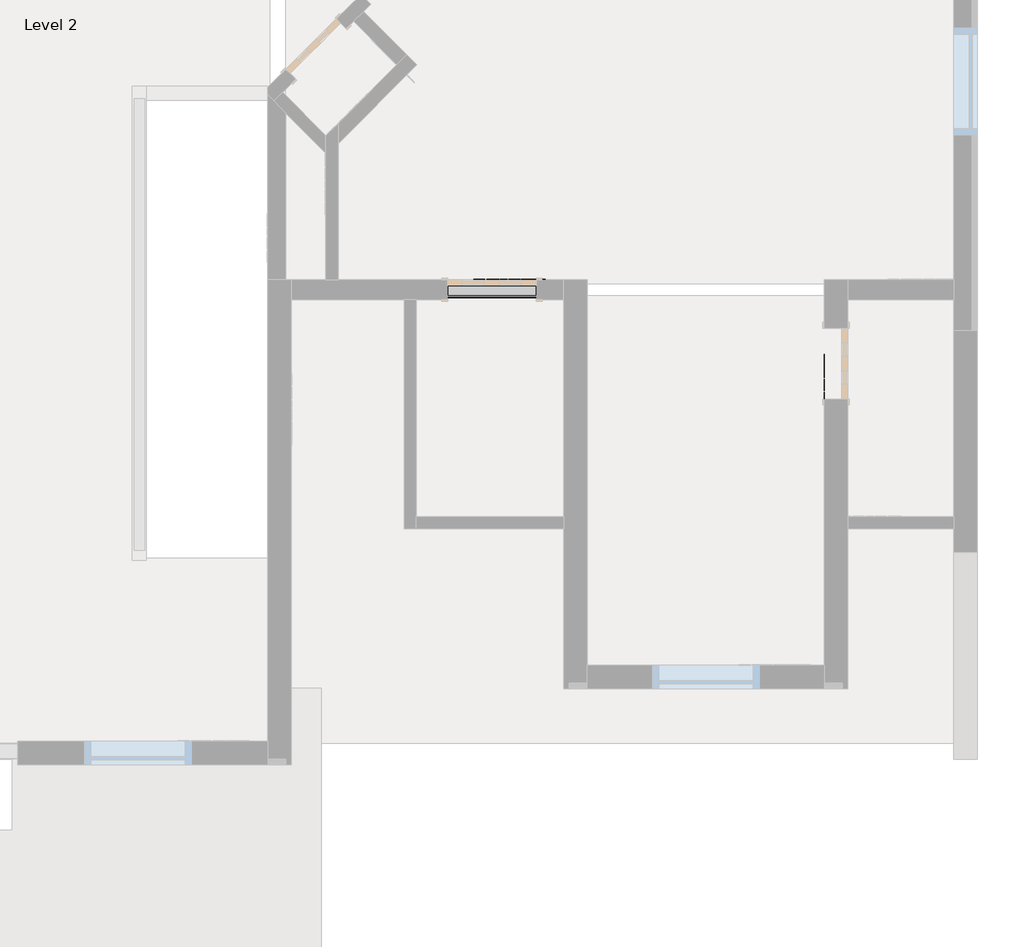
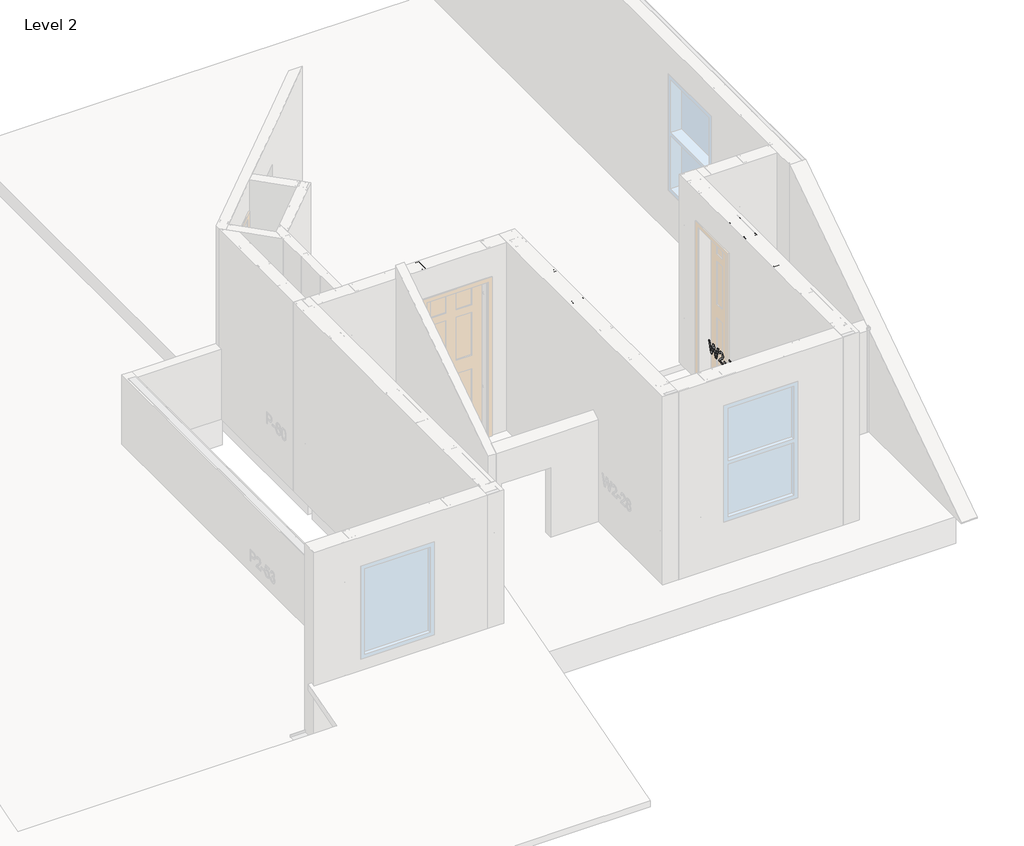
# One storey, part 21 of 46: 8 columns, 3 beams, 2 fasteners.
"""IFC4 building model written with IfcOpenShell, lengths in millimetres."""

from ifc_helpers import new_model, si_unit, point, frame, origin, place, context, project, spatial, circle_curve, ellipse_curve, trimmed, transform, mapped, element, save
from ifc_brep_helpers import plane_surface, extruded_surface, advanced_brep
from components import beam_350nf150_33_c6ae7401, beam_550nf150_43_2dc6aa5f, beam_550nf150_43_10f90b38, column_350nf150_33_f4fa3d8b, column_550nf150_43_e978d052, panellabel_7661e412, panellabel_1d555ae4

model = new_model("IFC4")

# Units and contexts
model_context = context("Model", 3, world=origin())
ifc_project = project(units=[si_unit("LENGTHUNIT", "METRE", prefix="MILLI")], contexts=[model_context])

# Site, building, storey
site = spatial("IfcSite", under=ifc_project)
building = spatial("IfcBuilding", under=site)
storey = spatial("IfcBuildingStorey", under=building, Name="Level 2", Elevation=3060.7)

# Beams
placement = place(None, origin())
beam_350nf150_33_shape = beam_350nf150_33_c6ae7401(model_context)
element("IfcBeam", 1, ObjectType="BIMSF-SSMA-S : 350NF150-33", at=placement, inside=storey, context=model_context, shape_type="MappedRepresentation", body=[
    mapped(beam_350nf150_33_shape, transform((-4093.8944599, 4446.714721, 3076.575), x_axis=(1.0000000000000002, 0.0, 0.0), y_axis=(0.0, 0.0, -1.0000000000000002), z_axis=(0.0, 1.0000000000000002, 0.0))),
])
beam_550nf150_43_shape = beam_550nf150_43_2dc6aa5f(model_context)
element("IfcBeam", 2, ObjectType="BIMSF-SSMA-S : 550NF150-43", at=placement, inside=storey, context=model_context, shape_type="MappedRepresentation", body=[
    mapped(beam_550nf150_43_shape, transform((-4254.6288349, 4365.752221, 3076.575), x_axis=(0.0, -1.0000000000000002, 0.0), y_axis=(0.0, 0.0, -1.0000000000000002), z_axis=(1.0000000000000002, 0.0, 0.0))),
])
beam_550nf150_43_2_shape = beam_550nf150_43_10f90b38(model_context)
element("IfcBeam", 3, ObjectType="BIMSF-SSMA-S : 550NF150-43", at=placement, inside=storey, context=model_context, shape_type="MappedRepresentation", body=[
    mapped(beam_550nf150_43_2_shape, transform((-7705.4569599, 6454.902221, 3076.575), x_axis=(-1.0000000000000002, 0.0, 0.0), y_axis=(0.0, 0.0, -1.0000000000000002), z_axis=(0.0, -1.0000000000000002, 0.0))),
])

# Columns
element("IfcColumn", 4, ObjectType="BIMSF-SSMA-S-Column : 350NF150-33", at=placement, inside=storey, context=model_context, shape_type="AdvancedBrep", body=[
    advanced_brep(
    [(-4184.7788349, 4402.264721, 3061.5929687), (-4184.7788349, 4491.164721, 3061.5929687), (-4146.6788349, 4491.164721, 3061.5929687), (-4146.6788349, 4485.5072052, 3061.5929687), (-4147.5611507, 4485.5072052, 3061.5929687), (-4147.5611507, 4490.2824052, 3061.5929687), (-4183.8965191, 4490.2824052, 3061.5929687), (-4183.8965191, 4403.1470367, 3061.5929687), (-4147.5611507, 4403.1470367, 3061.5929687), (-4147.5611507, 4407.9222367, 3061.5929687), (-4146.6788349, 4407.9222367, 3061.5929687), (-4146.6788349, 4402.264721, 3061.5929687), (-4184.7788349, 4402.264721, 4427.5338969), (-4184.7788349, 4491.164721, 4427.5338969), (-4184.7788349, 4459.414721, 3671.1929688), (-4184.7788349, 4434.014721, 3671.1929688), (-4146.6788349, 4491.164721, 4427.5338969), (-4146.6788349, 4485.5072052, 4427.5338969), (-4147.5611507, 4485.5072052, 4427.5338969), (-4147.5611507, 4490.2824052, 4427.5338969), (-4183.8965191, 4490.2824052, 4427.5338969), (-4183.8965191, 4403.1470367, 4427.5338969), (-4183.8965191, 4434.014721, 3671.1929687), (-4183.8965191, 4459.414721, 3671.1929687), (-4147.5611507, 4403.1470367, 4427.5338969), (-4147.5611507, 4407.9222367, 4427.5338969), (-4146.6788349, 4407.9222367, 4427.5338969), (-4146.6788349, 4402.264721, 4427.5338969)],
    [
        (0, 1),
        (1, 2),
        (2, 3),
        (3, 4),
        (4, 5),
        (5, 6),
        (6, 7),
        (7, 8),
        (8, 9),
        (9, 10),
        (10, 11),
        (11, 0),
        (0, 12),
        (12, 13),
        (13, 1),
        (14, 15, circle_curve(frame((-4184.7788349, 4446.714721, 3671.1929687), z_axis=(1.0, 0.0, 0.0), x_axis=(0.0, 1.0, 0.0)), 12.7)),
        (15, 14, circle_curve(frame((-4184.7788349, 4446.714721, 3671.1929688), z_axis=(1.0, 0.0, 0.0), x_axis=(0.0, 1.0, 0.0)), 12.7)),
        (13, 16),
        (16, 2),
        (16, 17),
        (17, 3),
        (17, 18),
        (18, 4),
        (18, 19),
        (19, 5),
        (19, 20),
        (20, 6),
        (20, 21),
        (21, 7),
        (22, 23, circle_curve(frame((-4183.8965191, 4446.714721, 3671.1929687), z_axis=(-1.0, 0.0, 0.0), x_axis=(0.0, 1.0, 0.0)), 12.7)),
        (23, 22, circle_curve(frame((-4183.8965191, 4446.714721, 3671.1929687), z_axis=(-1.0, 0.0, 0.0), x_axis=(0.0, 1.0, 0.0)), 12.7)),
        (21, 24),
        (24, 8),
        (24, 25),
        (25, 9),
        (25, 26),
        (26, 10),
        (26, 27),
        (27, 11),
        (27, 12),
        (22, 15),
        (14, 23),
    ],
    [
        plane_surface(frame((-4184.7788349, 4402.264721, 3061.5929687), z_axis=(0.0, 0.0, -1.0), x_axis=(-1.0, 0.0, 0.0))),
        plane_surface(frame((-4184.7788349, 4491.164721, 4427.5338969), z_axis=(-1.0, 0.0, 0.0), x_axis=(0.0, 0.0, -1.0))),
        plane_surface(frame((-4146.6788349, 4491.164721, 4427.5338969), z_axis=(0.0, 1.0, 0.0), x_axis=(0.0, 0.0, -1.0))),
        plane_surface(frame((-4146.6788349, 4485.5072052, 4427.5338969), z_axis=(1.0, 0.0, 0.0), x_axis=(0.0, 0.0, -1.0))),
        plane_surface(frame((-4147.5611507, 4485.5072052, 4427.5338969), z_axis=(0.0, -1.0, 0.0), x_axis=(0.0, 0.0, -1.0))),
        plane_surface(frame((-4147.5611507, 4490.2824052, 4427.5338969), z_axis=(-1.0, 0.0, 0.0), x_axis=(0.0, 0.0, -1.0))),
        plane_surface(frame((-4183.8965191, 4490.2824052, 4427.5338969), z_axis=(0.0, -1.0, 0.0), x_axis=(0.0, 0.0, -1.0))),
        plane_surface(frame((-4183.8965191, 4403.1470367, 4427.5338969), z_axis=(1.0, 0.0, 0.0), x_axis=(0.0, 0.0, -1.0))),
        plane_surface(frame((-4147.5611507, 4403.1470367, 4427.5338969), z_axis=(0.0, 1.0, 0.0), x_axis=(0.0, 0.0, -1.0))),
        plane_surface(frame((-4147.5611507, 4407.9222367, 4427.5338969), z_axis=(-1.0, 0.0, 0.0), x_axis=(0.0, 0.0, -1.0))),
        plane_surface(frame((-4146.6788349, 4407.9222367, 4427.5338969), z_axis=(0.0, 1.0, 0.0), x_axis=(0.0, 0.0, -1.0))),
        plane_surface(frame((-4146.6788349, 4402.264721, 4427.5338969), z_axis=(1.0, 0.0, 0.0), x_axis=(0.0, 0.0, -1.0))),
        plane_surface(frame((-4184.7788349, 4402.264721, 4427.5338969), z_axis=(0.0, -1.0, 0.0), x_axis=(0.0, 0.0, -1.0))),
        plane_surface(frame((-4184.7788349, 4402.264721, 4427.5338969), z_axis=(0.0, 0.0, 1.0), x_axis=(1.0, 0.0, 0.0))),
        extruded_surface(trimmed(ellipse_curve(frame((-2799.7879067, 4446.714721, 3671.1929688), z_axis=(-1.0, 0.0, 0.0), x_axis=(0.0, 1.0, 0.0)), 12.7, 12.7), [point((-2799.7879067, 4434.014721, 3671.1929688))], [point((-2799.7879067, 4459.414721, 3671.1929688))], True, "CARTESIAN"), (2731.8818561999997, 0.0, 0.0), 2731.8818561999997),
        extruded_surface(trimmed(ellipse_curve(frame((-2799.7879067, 4446.714721, 3671.1929688), z_axis=(-1.0, 0.0, 0.0), x_axis=(0.0, 1.0, 0.0)), 12.7, 12.7), [point((-2799.7879067, 4459.414721, 3671.1929688))], [point((-2799.7879067, 4434.014721, 3671.1929688))], True, "CARTESIAN"), (2731.8818561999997, 0.0, 0.0), 2731.8818561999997),
    ],
    [
        (0, [[1, 2, 3, 4, 5, 6, 7, 8, 9, 10, 11, 12]]),
        (1, [[-1, 13, 14, 15], [16, 17]]),
        (2, [[-2, -15, 18, 19]]),
        (3, [[-3, -19, 20, 21]]),
        (4, [[-4, -21, 22, 23]]),
        (5, [[-5, -23, 24, 25]]),
        (6, [[-6, -25, 26, 27]]),
        (7, [[-7, -27, 28, 29], [30, 31]]),
        (8, [[-8, -29, 32, 33]]),
        (9, [[-9, -33, 34, 35]]),
        (10, [[-10, -35, 36, 37]]),
        (11, [[-11, -37, 38, 39]]),
        (12, [[-12, -39, 40, -13]]),
        (13, [[-14, -40, -38, -36, -34, -32, -28, -26, -24, -22, -20, -18]]),
        (14, [[41, -16, 42, -30]]),
        (15, [[-41, -31, -42, -17]]),
    ],
),
])
column_350nf150_33_shape = column_350nf150_33_f4fa3d8b(model_context)
element("IfcColumn", 5, ObjectType="BIMSF-SSMA-S-Column : 350NF150-33", at=placement, inside=storey, context=model_context, shape_type="MappedRepresentation", body=[
    mapped(column_350nf150_33_shape, transform((-4015.0078726, 4435.977596, 0.0), x_axis=(-1.0, 0.0, 0.0), y_axis=(0.0, -1.0, 0.0), z_axis=(0.0, 0.0, 1.0))),
])
element("IfcColumn", 6, ObjectType="BIMSF-SSMA-S-Column : 550NF150-33", at=placement, inside=storey, context=model_context, shape_type="AdvancedBrep", body=[
    advanced_brep(
    [(-7576.4725849, 6524.752221, 3061.5929687), (-7576.4725849, 6385.052221, 3061.5929687), (-7614.5725849, 6385.052221, 3061.5929687), (-7614.5725849, 6390.7097367, 3061.5929687), (-7613.6902691, 6390.7097367, 3061.5929687), (-7613.6902691, 6385.9345367, 3061.5929687), (-7577.3549007, 6385.9345367, 3061.5929687), (-7577.3549007, 6523.8699052, 3061.5929687), (-7613.6902691, 6523.8699052, 3061.5929687), (-7613.6902691, 6519.0947052, 3061.5929687), (-7614.5725849, 6519.0947052, 3061.5929687), (-7614.5725849, 6524.752221, 3061.5929687), (-7576.4725849, 6524.752221, 5523.6070313), (-7576.4725849, 6385.052221, 5523.6070313), (-7576.4725849, 6442.202221, 3671.1929687), (-7576.4725849, 6467.602221, 3671.1929687), (-7576.4725849, 6442.202221, 4890.3929687), (-7576.4725849, 6467.602221, 4890.3929687), (-7614.5725849, 6385.052221, 5523.6070313), (-7614.5725849, 6390.7097367, 5523.6070313), (-7613.6902691, 6390.7097367, 5523.6070313), (-7613.6902691, 6385.9345367, 5523.6070313), (-7577.3549007, 6385.9345367, 5523.6070313), (-7577.3549007, 6523.8699052, 5523.6070313), (-7577.3549007, 6467.602221, 3671.1929687), (-7577.3549007, 6442.202221, 3671.1929687), (-7577.3549007, 6467.602221, 4890.3929688), (-7577.3549007, 6442.202221, 4890.3929688), (-7613.6902691, 6523.8699052, 5523.6070313), (-7613.6902691, 6519.0947052, 5523.6070313), (-7614.5725849, 6519.0947052, 5523.6070313), (-7614.5725849, 6524.752221, 5523.6070313)],
    [
        (0, 1),
        (1, 2),
        (2, 3),
        (3, 4),
        (4, 5),
        (5, 6),
        (6, 7),
        (7, 8),
        (8, 9),
        (9, 10),
        (10, 11),
        (11, 0),
        (0, 12),
        (12, 13),
        (13, 1),
        (14, 15, circle_curve(frame((-7576.4725849, 6454.902221, 3671.1929687), z_axis=(-1.0, 0.0, 0.0), x_axis=(0.0, -1.0, 0.0)), 12.7)),
        (15, 14, circle_curve(frame((-7576.4725849, 6454.902221, 3671.1929688), z_axis=(-1.0, 0.0, 0.0), x_axis=(0.0, -1.0, 0.0)), 12.7)),
        (16, 17, circle_curve(frame((-7576.4725849, 6454.902221, 4890.3929687), z_axis=(-1.0, 0.0, 0.0), x_axis=(0.0, -1.0, 0.0)), 12.7)),
        (17, 16, circle_curve(frame((-7576.4725849, 6454.902221, 4890.3929687), z_axis=(-1.0, 0.0, 0.0), x_axis=(0.0, -1.0, 0.0)), 12.7)),
        (13, 18),
        (18, 2),
        (18, 19),
        (19, 3),
        (19, 20),
        (20, 4),
        (20, 21),
        (21, 5),
        (21, 22),
        (22, 6),
        (22, 23),
        (23, 7),
        (24, 25, circle_curve(frame((-7577.3549007, 6454.902221, 3671.1929687), z_axis=(1.0, 0.0, 0.0), x_axis=(0.0, -1.0, 0.0)), 12.7)),
        (25, 24, circle_curve(frame((-7577.3549007, 6454.902221, 3671.1929688), z_axis=(1.0, 0.0, 0.0), x_axis=(0.0, -1.0, 0.0)), 12.7)),
        (26, 27, circle_curve(frame((-7577.3549007, 6454.902221, 4890.3929687), z_axis=(1.0, 0.0, 0.0), x_axis=(0.0, -1.0, 0.0)), 12.7)),
        (27, 26, circle_curve(frame((-7577.3549007, 6454.902221, 4890.3929687), z_axis=(1.0, 0.0, 0.0), x_axis=(0.0, -1.0, 0.0)), 12.7)),
        (23, 28),
        (28, 8),
        (28, 29),
        (29, 9),
        (29, 30),
        (30, 10),
        (30, 31),
        (31, 11),
        (31, 12),
        (24, 15),
        (14, 25),
        (26, 17),
        (16, 27),
    ],
    [
        plane_surface(frame((-7576.4725849, 6524.752221, 3061.5929687), z_axis=(0.0, 0.0, -1.0), x_axis=(1.0, 0.0, 0.0))),
        plane_surface(frame((-7576.4725849, 6385.052221, 5523.6070313), z_axis=(1.0, 0.0, 0.0), x_axis=(0.0, 0.0, -1.0))),
        plane_surface(frame((-7614.5725849, 6385.052221, 5523.6070313), z_axis=(0.0, -1.0, 0.0), x_axis=(0.0, 0.0, -1.0))),
        plane_surface(frame((-7614.5725849, 6390.7097367, 5523.6070313), z_axis=(-1.0, 0.0, 0.0), x_axis=(0.0, 0.0, -1.0))),
        plane_surface(frame((-7613.6902691, 6390.7097367, 5523.6070313), z_axis=(0.0, 1.0, 0.0), x_axis=(0.0, 0.0, -1.0))),
        plane_surface(frame((-7613.6902691, 6385.9345367, 5523.6070313), z_axis=(1.0, 0.0, 0.0), x_axis=(0.0, 0.0, -1.0))),
        plane_surface(frame((-7577.3549007, 6385.9345367, 5523.6070313), z_axis=(0.0, 1.0, 0.0), x_axis=(0.0, 0.0, -1.0))),
        plane_surface(frame((-7577.3549007, 6523.8699052, 5523.6070313), z_axis=(-1.0, 0.0, 0.0), x_axis=(0.0, 0.0, -1.0))),
        plane_surface(frame((-7613.6902691, 6523.8699052, 5523.6070313), z_axis=(0.0, -1.0, 0.0), x_axis=(0.0, 0.0, -1.0))),
        plane_surface(frame((-7613.6902691, 6519.0947052, 5523.6070313), z_axis=(1.0, 0.0, 0.0), x_axis=(0.0, 0.0, -1.0))),
        plane_surface(frame((-7614.5725849, 6519.0947052, 5523.6070313), z_axis=(0.0, -1.0, 0.0), x_axis=(0.0, 0.0, -1.0))),
        plane_surface(frame((-7614.5725849, 6524.752221, 5523.6070313), z_axis=(-1.0, 0.0, 0.0), x_axis=(0.0, 0.0, -1.0))),
        plane_surface(frame((-7576.4725849, 6524.752221, 5523.6070313), z_axis=(0.0, 1.0, 0.0), x_axis=(0.0, 0.0, -1.0))),
        plane_surface(frame((-7576.4725849, 6524.752221, 5523.6070313), z_axis=(0.0, 0.0, 1.0), x_axis=(-1.0, 0.0, 0.0))),
        extruded_surface(trimmed(ellipse_curve(frame((-10057.5366474, 6454.902221, 3671.1929688), z_axis=(1.0, 0.0, 0.0), x_axis=(0.0, -1.0, 0.0)), 12.7, 12.7), [point((-10057.5366474, 6467.602221, 3671.1929688))], [point((-10057.5366474, 6442.202221, 3671.1929688))], True, "CARTESIAN"), (-4924.028124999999, 0.0, 0.0), 4924.028124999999),
        extruded_surface(trimmed(ellipse_curve(frame((-10057.5366474, 6454.902221, 3671.1929688), z_axis=(1.0, 0.0, 0.0), x_axis=(0.0, -1.0, 0.0)), 12.7, 12.7), [point((-10057.5366474, 6442.202221, 3671.1929688))], [point((-10057.5366474, 6467.602221, 3671.1929688))], True, "CARTESIAN"), (-4924.028124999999, 0.0, 0.0), 4924.028124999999),
        extruded_surface(trimmed(ellipse_curve(frame((-10057.5366474, 6454.902221, 4890.3929687), z_axis=(1.0, 0.0, 0.0), x_axis=(0.0, -1.0, 0.0)), 12.7, 12.7), [point((-10057.5366474, 6467.602221, 4890.3929687))], [point((-10057.5366474, 6442.202221, 4890.3929687))], True, "CARTESIAN"), (-4924.028124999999, 0.0, 0.0), 4924.028124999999),
        extruded_surface(trimmed(ellipse_curve(frame((-10057.5366474, 6454.902221, 4890.3929687), z_axis=(1.0, 0.0, 0.0), x_axis=(0.0, -1.0, 0.0)), 12.7, 12.7), [point((-10057.5366474, 6442.202221, 4890.3929687))], [point((-10057.5366474, 6467.602221, 4890.3929687))], True, "CARTESIAN"), (-4924.028124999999, 0.0, 0.0), 4924.028124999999),
    ],
    [
        (0, [[1, 2, 3, 4, 5, 6, 7, 8, 9, 10, 11, 12]]),
        (1, [[-1, 13, 14, 15], [16, 17], [18, 19]]),
        (2, [[-2, -15, 20, 21]]),
        (3, [[-3, -21, 22, 23]]),
        (4, [[-4, -23, 24, 25]]),
        (5, [[-5, -25, 26, 27]]),
        (6, [[-6, -27, 28, 29]]),
        (7, [[-7, -29, 30, 31], [32, 33], [34, 35]]),
        (8, [[-8, -31, 36, 37]]),
        (9, [[-9, -37, 38, 39]]),
        (10, [[-10, -39, 40, 41]]),
        (11, [[-11, -41, 42, 43]]),
        (12, [[-12, -43, 44, -13]]),
        (13, [[-14, -44, -42, -40, -38, -36, -30, -28, -26, -24, -22, -20]]),
        (14, [[45, -16, 46, -32]]),
        (15, [[-45, -33, -46, -17]]),
        (16, [[47, -18, 48, -34]]),
        (17, [[-47, -35, -48, -19]]),
    ],
),
])
element("IfcColumn", 7, ObjectType="BIMSF-SSMA-S-Column : 550NF150-43", at=placement, inside=storey, context=model_context, shape_type="AdvancedBrep", body=[
    advanced_brep(
    [(-4184.7788349, 5146.802221, 3061.5929687), (-4324.4788349, 5146.802221, 3061.5929687), (-4324.4788349, 5184.902221, 3061.5929687), (-4318.5539507, 5184.902221, 3061.5929687), (-4318.5539507, 5183.7525367, 3061.5929687), (-4323.3291507, 5183.7525367, 3061.5929687), (-4323.3291507, 5147.9519052, 3061.5929687), (-4185.9285191, 5147.9519052, 3061.5929687), (-4185.9285191, 5183.7525367, 3061.5929687), (-4190.7037191, 5183.7525367, 3061.5929687), (-4190.7037191, 5184.902221, 3061.5929687), (-4184.7788349, 5184.902221, 3061.5929687), (-4184.7788349, 5146.802221, 5523.6070313), (-4324.4788349, 5146.802221, 5523.6070313), (-4267.3288349, 5146.802221, 3671.1929687), (-4241.9288349, 5146.802221, 3671.1929687), (-4267.3288349, 5146.802221, 4890.3929687), (-4241.9288349, 5146.802221, 4890.3929687), (-4324.4788349, 5184.902221, 5523.6070313), (-4318.5539507, 5184.902221, 5523.6070313), (-4318.5539507, 5183.7525367, 5523.6070313), (-4323.3291507, 5183.7525367, 5523.6070313), (-4323.3291507, 5147.9519052, 5523.6070313), (-4185.9285191, 5147.9519052, 5523.6070313), (-4241.9288349, 5147.9519052, 3671.1929688), (-4267.3288349, 5147.9519052, 3671.1929688), (-4241.9288349, 5147.9519052, 4890.3929687), (-4267.3288349, 5147.9519052, 4890.3929687), (-4185.9285191, 5183.7525367, 5523.6070313), (-4190.7037191, 5183.7525367, 5523.6070313), (-4190.7037191, 5184.902221, 5523.6070313), (-4184.7788349, 5184.902221, 5523.6070313)],
    [
        (0, 1),
        (1, 2),
        (2, 3),
        (3, 4),
        (4, 5),
        (5, 6),
        (6, 7),
        (7, 8),
        (8, 9),
        (9, 10),
        (10, 11),
        (11, 0),
        (0, 12),
        (12, 13),
        (13, 1),
        (14, 15, circle_curve(frame((-4254.6288349, 5146.802221, 3671.1929688), z_axis=(0.0, 1.0, 0.0), x_axis=(-1.0, 0.0, 0.0)), 12.7)),
        (15, 14, circle_curve(frame((-4254.6288349, 5146.802221, 3671.1929688), z_axis=(0.0, 1.0, 0.0), x_axis=(-1.0, 0.0, 0.0)), 12.7)),
        (16, 17, circle_curve(frame((-4254.6288349, 5146.802221, 4890.3929687), z_axis=(0.0, 1.0, 0.0), x_axis=(-1.0, 0.0, 0.0)), 12.7)),
        (17, 16, circle_curve(frame((-4254.6288349, 5146.802221, 4890.3929687), z_axis=(0.0, 1.0, 0.0), x_axis=(-1.0, 0.0, 0.0)), 12.7)),
        (13, 18),
        (18, 2),
        (18, 19),
        (19, 3),
        (19, 20),
        (20, 4),
        (20, 21),
        (21, 5),
        (21, 22),
        (22, 6),
        (22, 23),
        (23, 7),
        (24, 25, circle_curve(frame((-4254.6288349, 5147.9519052, 3671.1929688), z_axis=(0.0, -1.0, 0.0), x_axis=(-1.0, 0.0, 0.0)), 12.7)),
        (25, 24, circle_curve(frame((-4254.6288349, 5147.9519052, 3671.1929688), z_axis=(0.0, -1.0, 0.0), x_axis=(-1.0, 0.0, 0.0)), 12.7)),
        (26, 27, circle_curve(frame((-4254.6288349, 5147.9519052, 4890.3929687), z_axis=(0.0, -1.0, 0.0), x_axis=(-1.0, 0.0, 0.0)), 12.7)),
        (27, 26, circle_curve(frame((-4254.6288349, 5147.9519052, 4890.3929687), z_axis=(0.0, -1.0, 0.0), x_axis=(-1.0, 0.0, 0.0)), 12.7)),
        (23, 28),
        (28, 8),
        (28, 29),
        (29, 9),
        (29, 30),
        (30, 10),
        (30, 31),
        (31, 11),
        (31, 12),
        (24, 15),
        (14, 25),
        (26, 17),
        (16, 27),
    ],
    [
        plane_surface(frame((-4184.7788349, 5146.802221, 3061.5929687), z_axis=(0.0, 0.0, -1.0), x_axis=(0.0, -1.0, 0.0))),
        plane_surface(frame((-4324.4788349, 5146.802221, 5523.6070313), z_axis=(0.0, -1.0, 0.0), x_axis=(0.0, 0.0, -1.0))),
        plane_surface(frame((-4324.4788349, 5184.902221, 5523.6070313), z_axis=(-1.0, 0.0, 0.0), x_axis=(0.0, 0.0, -1.0))),
        plane_surface(frame((-4318.5539507, 5184.902221, 5523.6070313), z_axis=(0.0, 1.0, 0.0), x_axis=(0.0, 0.0, -1.0))),
        plane_surface(frame((-4318.5539507, 5183.7525367, 5523.6070313), z_axis=(1.0, 0.0, 0.0), x_axis=(0.0, 0.0, -1.0))),
        plane_surface(frame((-4323.3291507, 5183.7525367, 5523.6070313), z_axis=(0.0, -1.0, 0.0), x_axis=(0.0, 0.0, -1.0))),
        plane_surface(frame((-4323.3291507, 5147.9519052, 5523.6070313), z_axis=(1.0, 0.0, 0.0), x_axis=(0.0, 0.0, -1.0))),
        plane_surface(frame((-4185.9285191, 5147.9519052, 5523.6070313), z_axis=(0.0, 1.0, 0.0), x_axis=(0.0, 0.0, -1.0))),
        plane_surface(frame((-4185.9285191, 5183.7525367, 5523.6070313), z_axis=(-1.0, 0.0, 0.0), x_axis=(0.0, 0.0, -1.0))),
        plane_surface(frame((-4190.7037191, 5183.7525367, 5523.6070313), z_axis=(0.0, -1.0, 0.0), x_axis=(0.0, 0.0, -1.0))),
        plane_surface(frame((-4190.7037191, 5184.902221, 5523.6070313), z_axis=(-1.0, 0.0, 0.0), x_axis=(0.0, 0.0, -1.0))),
        plane_surface(frame((-4184.7788349, 5184.902221, 5523.6070313), z_axis=(0.0, 1.0, 0.0), x_axis=(0.0, 0.0, -1.0))),
        plane_surface(frame((-4184.7788349, 5146.802221, 5523.6070313), z_axis=(1.0, 0.0, 0.0), x_axis=(0.0, 0.0, -1.0))),
        plane_surface(frame((-4184.7788349, 5146.802221, 5523.6070313), z_axis=(0.0, 0.0, 1.0), x_axis=(0.0, 1.0, 0.0))),
        extruded_surface(trimmed(ellipse_curve(frame((-4254.6288349, 7627.8662835, 3671.1929688), z_axis=(0.0, -1.0, 0.0), x_axis=(-1.0, 0.0, 0.0)), 12.7, 12.7), [point((-4241.9288349, 7627.8662835, 3671.1929688))], [point((-4267.3288349, 7627.8662835, 3671.1929688))], True, "CARTESIAN"), (0.0, 4924.028125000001, 0.0), 4924.028125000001),
        extruded_surface(trimmed(ellipse_curve(frame((-4254.6288349, 7627.8662835, 3671.1929688), z_axis=(0.0, -1.0, 0.0), x_axis=(-1.0, 0.0, 0.0)), 12.7, 12.7), [point((-4267.3288349, 7627.8662835, 3671.1929688))], [point((-4241.9288349, 7627.8662835, 3671.1929688))], True, "CARTESIAN"), (0.0, 4924.028125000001, 0.0), 4924.028125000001),
        extruded_surface(trimmed(ellipse_curve(frame((-4254.6288349, 7627.8662835, 4890.3929687), z_axis=(0.0, -1.0, 0.0), x_axis=(-1.0, 0.0, 0.0)), 12.7, 12.7), [point((-4241.9288349, 7627.8662835, 4890.3929687))], [point((-4267.3288349, 7627.8662835, 4890.3929687))], True, "CARTESIAN"), (0.0, 4924.028125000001, 0.0), 4924.028125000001),
        extruded_surface(trimmed(ellipse_curve(frame((-4254.6288349, 7627.8662835, 4890.3929687), z_axis=(0.0, -1.0, 0.0), x_axis=(-1.0, 0.0, 0.0)), 12.7, 12.7), [point((-4267.3288349, 7627.8662835, 4890.3929687))], [point((-4241.9288349, 7627.8662835, 4890.3929687))], True, "CARTESIAN"), (0.0, 4924.028125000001, 0.0), 4924.028125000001),
    ],
    [
        (0, [[1, 2, 3, 4, 5, 6, 7, 8, 9, 10, 11, 12]]),
        (1, [[-1, 13, 14, 15], [16, 17], [18, 19]]),
        (2, [[-2, -15, 20, 21]]),
        (3, [[-3, -21, 22, 23]]),
        (4, [[-4, -23, 24, 25]]),
        (5, [[-5, -25, 26, 27]]),
        (6, [[-6, -27, 28, 29]]),
        (7, [[-7, -29, 30, 31], [32, 33], [34, 35]]),
        (8, [[-8, -31, 36, 37]]),
        (9, [[-9, -37, 38, 39]]),
        (10, [[-10, -39, 40, 41]]),
        (11, [[-11, -41, 42, 43]]),
        (12, [[-12, -43, 44, -13]]),
        (13, [[-14, -44, -42, -40, -38, -36, -30, -28, -26, -24, -22, -20]]),
        (14, [[45, -16, 46, -32]]),
        (15, [[-45, -33, -46, -17]]),
        (16, [[47, -18, 48, -34]]),
        (17, [[-47, -35, -48, -19]]),
    ],
),
])
element("IfcColumn", 8, ObjectType="BIMSF-SSMA-S-Column : 550NF150-43", at=placement, inside=storey, context=model_context, shape_type="AdvancedBrep", body=[
    advanced_brep(
    [(-4184.7788349, 4537.202221, 3061.5929687), (-4324.4788349, 4537.202221, 3061.5929687), (-4324.4788349, 4575.302221, 3061.5929687), (-4318.5539507, 4575.302221, 3061.5929687), (-4318.5539507, 4574.1525367, 3061.5929687), (-4323.3291507, 4574.1525367, 3061.5929687), (-4323.3291507, 4538.3519052, 3061.5929687), (-4185.9285191, 4538.3519052, 3061.5929687), (-4185.9285191, 4574.1525367, 3061.5929687), (-4190.7037191, 4574.1525367, 3061.5929687), (-4190.7037191, 4575.302221, 3061.5929687), (-4184.7788349, 4575.302221, 3061.5929687), (-4184.7788349, 4537.202221, 5523.6070313), (-4324.4788349, 4537.202221, 5523.6070313), (-4267.3288349, 4537.202221, 3671.1929688), (-4241.9288349, 4537.202221, 3671.1929687), (-4267.3288349, 4537.202221, 4890.3929687), (-4241.9288349, 4537.202221, 4890.3929687), (-4324.4788349, 4575.302221, 5523.6070313), (-4318.5539507, 4575.302221, 5523.6070313), (-4318.5539507, 4574.1525367, 5523.6070313), (-4323.3291507, 4574.1525367, 5523.6070313), (-4323.3291507, 4538.3519052, 5523.6070313), (-4185.9285191, 4538.3519052, 5523.6070313), (-4241.9288349, 4538.3519052, 3671.1929687), (-4267.3288349, 4538.3519052, 3671.1929688), (-4241.9288349, 4538.3519052, 4890.3929687), (-4267.3288349, 4538.3519052, 4890.3929687), (-4185.9285191, 4574.1525367, 5523.6070313), (-4190.7037191, 4574.1525367, 5523.6070313), (-4190.7037191, 4575.302221, 5523.6070313), (-4184.7788349, 4575.302221, 5523.6070313)],
    [
        (0, 1),
        (1, 2),
        (2, 3),
        (3, 4),
        (4, 5),
        (5, 6),
        (6, 7),
        (7, 8),
        (8, 9),
        (9, 10),
        (10, 11),
        (11, 0),
        (0, 12),
        (12, 13),
        (13, 1),
        (14, 15, circle_curve(frame((-4254.6288349, 4537.202221, 3671.1929687), z_axis=(0.0, 1.0, 0.0), x_axis=(-1.0, 0.0, 0.0)), 12.7)),
        (15, 14, circle_curve(frame((-4254.6288349, 4537.202221, 3671.1929687), z_axis=(0.0, 1.0, 0.0), x_axis=(-1.0, 0.0, 0.0)), 12.7)),
        (16, 17, circle_curve(frame((-4254.6288349, 4537.202221, 4890.3929687), z_axis=(0.0, 1.0, 0.0), x_axis=(-1.0, 0.0, 0.0)), 12.7)),
        (17, 16, circle_curve(frame((-4254.6288349, 4537.202221, 4890.3929687), z_axis=(0.0, 1.0, 0.0), x_axis=(-1.0, 0.0, 0.0)), 12.7)),
        (13, 18),
        (18, 2),
        (18, 19),
        (19, 3),
        (19, 20),
        (20, 4),
        (20, 21),
        (21, 5),
        (21, 22),
        (22, 6),
        (22, 23),
        (23, 7),
        (24, 25, circle_curve(frame((-4254.6288349, 4538.3519052, 3671.1929688), z_axis=(0.0, -1.0, 0.0), x_axis=(-1.0, 0.0, 0.0)), 12.7)),
        (25, 24, circle_curve(frame((-4254.6288349, 4538.3519052, 3671.1929687), z_axis=(0.0, -1.0, 0.0), x_axis=(-1.0, 0.0, 0.0)), 12.7)),
        (26, 27, circle_curve(frame((-4254.6288349, 4538.3519052, 4890.3929687), z_axis=(0.0, -1.0, 0.0), x_axis=(-1.0, 0.0, 0.0)), 12.7)),
        (27, 26, circle_curve(frame((-4254.6288349, 4538.3519052, 4890.3929687), z_axis=(0.0, -1.0, 0.0), x_axis=(-1.0, 0.0, 0.0)), 12.7)),
        (23, 28),
        (28, 8),
        (28, 29),
        (29, 9),
        (29, 30),
        (30, 10),
        (30, 31),
        (31, 11),
        (31, 12),
        (24, 15),
        (14, 25),
        (26, 17),
        (16, 27),
    ],
    [
        plane_surface(frame((-4184.7788349, 4537.202221, 3061.5929687), z_axis=(0.0, 0.0, -1.0), x_axis=(0.0, -1.0, 0.0))),
        plane_surface(frame((-4324.4788349, 4537.202221, 5523.6070313), z_axis=(0.0, -1.0, 0.0), x_axis=(0.0, 0.0, -1.0))),
        plane_surface(frame((-4324.4788349, 4575.302221, 5523.6070313), z_axis=(-1.0, 0.0, 0.0), x_axis=(0.0, 0.0, -1.0))),
        plane_surface(frame((-4318.5539507, 4575.302221, 5523.6070313), z_axis=(0.0, 1.0, 0.0), x_axis=(0.0, 0.0, -1.0))),
        plane_surface(frame((-4318.5539507, 4574.1525367, 5523.6070313), z_axis=(1.0, 0.0, 0.0), x_axis=(0.0, 0.0, -1.0))),
        plane_surface(frame((-4323.3291507, 4574.1525367, 5523.6070313), z_axis=(0.0, -1.0, 0.0), x_axis=(0.0, 0.0, -1.0))),
        plane_surface(frame((-4323.3291507, 4538.3519052, 5523.6070313), z_axis=(1.0, 0.0, 0.0), x_axis=(0.0, 0.0, -1.0))),
        plane_surface(frame((-4185.9285191, 4538.3519052, 5523.6070313), z_axis=(0.0, 1.0, 0.0), x_axis=(0.0, 0.0, -1.0))),
        plane_surface(frame((-4185.9285191, 4574.1525367, 5523.6070313), z_axis=(-1.0, 0.0, 0.0), x_axis=(0.0, 0.0, -1.0))),
        plane_surface(frame((-4190.7037191, 4574.1525367, 5523.6070313), z_axis=(0.0, -1.0, 0.0), x_axis=(0.0, 0.0, -1.0))),
        plane_surface(frame((-4190.7037191, 4575.302221, 5523.6070313), z_axis=(-1.0, 0.0, 0.0), x_axis=(0.0, 0.0, -1.0))),
        plane_surface(frame((-4184.7788349, 4575.302221, 5523.6070313), z_axis=(0.0, 1.0, 0.0), x_axis=(0.0, 0.0, -1.0))),
        plane_surface(frame((-4184.7788349, 4537.202221, 5523.6070313), z_axis=(1.0, 0.0, 0.0), x_axis=(0.0, 0.0, -1.0))),
        plane_surface(frame((-4184.7788349, 4537.202221, 5523.6070313), z_axis=(0.0, 0.0, 1.0), x_axis=(0.0, 1.0, 0.0))),
        extruded_surface(trimmed(ellipse_curve(frame((-4254.6288349, 7018.2662835, 3671.1929688), z_axis=(0.0, -1.0, 0.0), x_axis=(-1.0, 0.0, 0.0)), 12.7, 12.7), [point((-4241.9288349, 7018.2662835, 3671.1929688))], [point((-4267.3288349, 7018.2662835, 3671.1929688))], True, "CARTESIAN"), (0.0, 4924.028125, 0.0), 4924.028125),
        extruded_surface(trimmed(ellipse_curve(frame((-4254.6288349, 7018.2662835, 3671.1929688), z_axis=(0.0, -1.0, 0.0), x_axis=(-1.0, 0.0, 0.0)), 12.7, 12.7), [point((-4267.3288349, 7018.2662835, 3671.1929688))], [point((-4241.9288349, 7018.2662835, 3671.1929688))], True, "CARTESIAN"), (0.0, 4924.028125, 0.0), 4924.028125),
        extruded_surface(trimmed(ellipse_curve(frame((-4254.6288349, 7018.2662835, 4890.3929687), z_axis=(0.0, -1.0, 0.0), x_axis=(-1.0, 0.0, 0.0)), 12.7, 12.7), [point((-4241.9288349, 7018.2662835, 4890.3929687))], [point((-4267.3288349, 7018.2662835, 4890.3929687))], True, "CARTESIAN"), (0.0, 4924.028125, 0.0), 4924.028125),
        extruded_surface(trimmed(ellipse_curve(frame((-4254.6288349, 7018.2662835, 4890.3929687), z_axis=(0.0, -1.0, 0.0), x_axis=(-1.0, 0.0, 0.0)), 12.7, 12.7), [point((-4267.3288349, 7018.2662835, 4890.3929687))], [point((-4241.9288349, 7018.2662835, 4890.3929687))], True, "CARTESIAN"), (0.0, 4924.028125, 0.0), 4924.028125),
    ],
    [
        (0, [[1, 2, 3, 4, 5, 6, 7, 8, 9, 10, 11, 12]]),
        (1, [[-1, 13, 14, 15], [16, 17], [18, 19]]),
        (2, [[-2, -15, 20, 21]]),
        (3, [[-3, -21, 22, 23]]),
        (4, [[-4, -23, 24, 25]]),
        (5, [[-5, -25, 26, 27]]),
        (6, [[-6, -27, 28, 29]]),
        (7, [[-7, -29, 30, 31], [32, 33], [34, 35]]),
        (8, [[-8, -31, 36, 37]]),
        (9, [[-9, -37, 38, 39]]),
        (10, [[-10, -39, 40, 41]]),
        (11, [[-11, -41, 42, 43]]),
        (12, [[-12, -43, 44, -13]]),
        (13, [[-14, -44, -42, -40, -38, -36, -30, -28, -26, -24, -22, -20]]),
        (14, [[45, -16, 46, -32]]),
        (15, [[-45, -33, -46, -17]]),
        (16, [[47, -18, 48, -34]]),
        (17, [[-47, -35, -48, -19]]),
    ],
),
])
element("IfcColumn", 9, ObjectType="BIMSF-SSMA-S-Column : 550NF150-43", at=placement, inside=storey, context=model_context, shape_type="AdvancedBrep", body=[
    advanced_brep(
    [(-6391.4038349, 5024.564721, 3061.5929687), (-6531.1038349, 5024.564721, 3061.5929687), (-6531.1038349, 5062.664721, 3061.5929687), (-6525.1789507, 5062.664721, 3061.5929687), (-6525.1789507, 5061.5150367, 3061.5929687), (-6529.9541507, 5061.5150367, 3061.5929687), (-6529.9541507, 5025.7144052, 3061.5929687), (-6392.5535191, 5025.7144052, 3061.5929687), (-6392.5535191, 5061.5150367, 3061.5929687), (-6397.3287191, 5061.5150367, 3061.5929687), (-6397.3287191, 5062.664721, 3061.5929687), (-6391.4038349, 5062.664721, 3061.5929687), (-6391.4038349, 5024.564721, 5523.6070313), (-6531.1038349, 5024.564721, 5523.6070313), (-6473.9538349, 5024.564721, 3671.1929688), (-6448.5538349, 5024.564721, 3671.1929688), (-6473.9538349, 5024.564721, 4890.3929687), (-6448.5538349, 5024.564721, 4890.3929687), (-6531.1038349, 5062.664721, 5523.6070313), (-6525.1789507, 5062.664721, 5523.6070313), (-6525.1789507, 5061.5150367, 5523.6070313), (-6529.9541507, 5061.5150367, 5523.6070313), (-6529.9541507, 5025.7144052, 5523.6070313), (-6392.5535191, 5025.7144052, 5523.6070313), (-6448.5538349, 5025.7144052, 3671.1929688), (-6473.9538349, 5025.7144052, 3671.1929688), (-6448.5538349, 5025.7144052, 4890.3929688), (-6473.9538349, 5025.7144052, 4890.3929688), (-6392.5535191, 5061.5150367, 5523.6070313), (-6397.3287191, 5061.5150367, 5523.6070313), (-6397.3287191, 5062.664721, 5523.6070313), (-6391.4038349, 5062.664721, 5523.6070313)],
    [
        (0, 1),
        (1, 2),
        (2, 3),
        (3, 4),
        (4, 5),
        (5, 6),
        (6, 7),
        (7, 8),
        (8, 9),
        (9, 10),
        (10, 11),
        (11, 0),
        (0, 12),
        (12, 13),
        (13, 1),
        (14, 15, circle_curve(frame((-6461.2538349, 5024.564721, 3671.1929688), z_axis=(0.0, 1.0, 0.0), x_axis=(-1.0, 0.0, 0.0)), 12.7)),
        (15, 14, circle_curve(frame((-6461.2538349, 5024.564721, 3671.1929688), z_axis=(0.0, 1.0, 0.0), x_axis=(-1.0, 0.0, 0.0)), 12.7)),
        (16, 17, circle_curve(frame((-6461.2538349, 5024.564721, 4890.3929687), z_axis=(0.0, 1.0, 0.0), x_axis=(-1.0, 0.0, 0.0)), 12.7)),
        (17, 16, circle_curve(frame((-6461.2538349, 5024.564721, 4890.3929687), z_axis=(0.0, 1.0, 0.0), x_axis=(-1.0, 0.0, 0.0)), 12.7)),
        (13, 18),
        (18, 2),
        (18, 19),
        (19, 3),
        (19, 20),
        (20, 4),
        (20, 21),
        (21, 5),
        (21, 22),
        (22, 6),
        (22, 23),
        (23, 7),
        (24, 25, circle_curve(frame((-6461.2538349, 5025.7144052, 3671.1929687), z_axis=(0.0, -1.0, 0.0), x_axis=(-1.0, 0.0, 0.0)), 12.7)),
        (25, 24, circle_curve(frame((-6461.2538349, 5025.7144052, 3671.1929687), z_axis=(0.0, -1.0, 0.0), x_axis=(-1.0, 0.0, 0.0)), 12.7)),
        (26, 27, circle_curve(frame((-6461.2538349, 5025.7144052, 4890.3929687), z_axis=(0.0, -1.0, 0.0), x_axis=(-1.0, 0.0, 0.0)), 12.7)),
        (27, 26, circle_curve(frame((-6461.2538349, 5025.7144052, 4890.3929687), z_axis=(0.0, -1.0, 0.0), x_axis=(-1.0, 0.0, 0.0)), 12.7)),
        (23, 28),
        (28, 8),
        (28, 29),
        (29, 9),
        (29, 30),
        (30, 10),
        (30, 31),
        (31, 11),
        (31, 12),
        (24, 15),
        (14, 25),
        (26, 17),
        (16, 27),
    ],
    [
        plane_surface(frame((-6391.4038349, 5024.564721, 3061.5929687), z_axis=(0.0, 0.0, -1.0), x_axis=(0.0, -1.0, 0.0))),
        plane_surface(frame((-6531.1038349, 5024.564721, 5523.6070313), z_axis=(0.0, -1.0, 0.0), x_axis=(0.0, 0.0, -1.0))),
        plane_surface(frame((-6531.1038349, 5062.664721, 5523.6070313), z_axis=(-1.0, 0.0, 0.0), x_axis=(0.0, 0.0, -1.0))),
        plane_surface(frame((-6525.1789507, 5062.664721, 5523.6070313), z_axis=(0.0, 1.0, 0.0), x_axis=(0.0, 0.0, -1.0))),
        plane_surface(frame((-6525.1789507, 5061.5150367, 5523.6070313), z_axis=(1.0, 0.0, 0.0), x_axis=(0.0, 0.0, -1.0))),
        plane_surface(frame((-6529.9541507, 5061.5150367, 5523.6070313), z_axis=(0.0, -1.0, 0.0), x_axis=(0.0, 0.0, -1.0))),
        plane_surface(frame((-6529.9541507, 5025.7144052, 5523.6070313), z_axis=(1.0, 0.0, 0.0), x_axis=(0.0, 0.0, -1.0))),
        plane_surface(frame((-6392.5535191, 5025.7144052, 5523.6070313), z_axis=(0.0, 1.0, 0.0), x_axis=(0.0, 0.0, -1.0))),
        plane_surface(frame((-6392.5535191, 5061.5150367, 5523.6070313), z_axis=(-1.0, 0.0, 0.0), x_axis=(0.0, 0.0, -1.0))),
        plane_surface(frame((-6397.3287191, 5061.5150367, 5523.6070313), z_axis=(0.0, -1.0, 0.0), x_axis=(0.0, 0.0, -1.0))),
        plane_surface(frame((-6397.3287191, 5062.664721, 5523.6070313), z_axis=(-1.0, 0.0, 0.0), x_axis=(0.0, 0.0, -1.0))),
        plane_surface(frame((-6391.4038349, 5062.664721, 5523.6070313), z_axis=(0.0, 1.0, 0.0), x_axis=(0.0, 0.0, -1.0))),
        plane_surface(frame((-6391.4038349, 5024.564721, 5523.6070313), z_axis=(1.0, 0.0, 0.0), x_axis=(0.0, 0.0, -1.0))),
        plane_surface(frame((-6391.4038349, 5024.564721, 5523.6070313), z_axis=(0.0, 0.0, 1.0), x_axis=(0.0, 1.0, 0.0))),
        extruded_surface(trimmed(ellipse_curve(frame((-6461.2538349, 7505.6287835, 3671.1929688), z_axis=(0.0, -1.0, 0.0), x_axis=(-1.0, 0.0, 0.0)), 12.7, 12.7), [point((-6448.5538349, 7505.6287835, 3671.1929688))], [point((-6473.9538349, 7505.6287835, 3671.1929688))], True, "CARTESIAN"), (0.0, 4924.028124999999, 0.0), 4924.028124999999),
        extruded_surface(trimmed(ellipse_curve(frame((-6461.2538349, 7505.6287835, 3671.1929688), z_axis=(0.0, -1.0, 0.0), x_axis=(-1.0, 0.0, 0.0)), 12.7, 12.7), [point((-6473.9538349, 7505.6287835, 3671.1929688))], [point((-6448.5538349, 7505.6287835, 3671.1929688))], True, "CARTESIAN"), (0.0, 4924.028124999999, 0.0), 4924.028124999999),
        extruded_surface(trimmed(ellipse_curve(frame((-6461.2538349, 7505.6287835, 4890.3929687), z_axis=(0.0, -1.0, 0.0), x_axis=(-1.0, 0.0, 0.0)), 12.7, 12.7), [point((-6448.5538349, 7505.6287835, 4890.3929687))], [point((-6473.9538349, 7505.6287835, 4890.3929687))], True, "CARTESIAN"), (0.0, 4924.028124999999, 0.0), 4924.028124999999),
        extruded_surface(trimmed(ellipse_curve(frame((-6461.2538349, 7505.6287835, 4890.3929687), z_axis=(0.0, -1.0, 0.0), x_axis=(-1.0, 0.0, 0.0)), 12.7, 12.7), [point((-6473.9538349, 7505.6287835, 4890.3929687))], [point((-6448.5538349, 7505.6287835, 4890.3929687))], True, "CARTESIAN"), (0.0, 4924.028124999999, 0.0), 4924.028124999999),
    ],
    [
        (0, [[1, 2, 3, 4, 5, 6, 7, 8, 9, 10, 11, 12]]),
        (1, [[-1, 13, 14, 15], [16, 17], [18, 19]]),
        (2, [[-2, -15, 20, 21]]),
        (3, [[-3, -21, 22, 23]]),
        (4, [[-4, -23, 24, 25]]),
        (5, [[-5, -25, 26, 27]]),
        (6, [[-6, -27, 28, 29]]),
        (7, [[-7, -29, 30, 31], [32, 33], [34, 35]]),
        (8, [[-8, -31, 36, 37]]),
        (9, [[-9, -37, 38, 39]]),
        (10, [[-10, -39, 40, 41]]),
        (11, [[-11, -41, 42, 43]]),
        (12, [[-12, -43, 44, -13]]),
        (13, [[-14, -44, -42, -40, -38, -36, -30, -28, -26, -24, -22, -20]]),
        (14, [[45, -16, 46, -32]]),
        (15, [[-45, -33, -46, -17]]),
        (16, [[47, -18, 48, -34]]),
        (17, [[-47, -35, -48, -19]]),
    ],
),
])
element("IfcColumn", 10, ObjectType="BIMSF-SSMA-S-Column : 550NF150-43", at=placement, inside=storey, context=model_context, shape_type="AdvancedBrep", body=[
    advanced_brep(
    [(-6391.4038349, 5634.164721, 3061.5929687), (-6531.1038349, 5634.164721, 3061.5929687), (-6531.1038349, 5672.264721, 3061.5929687), (-6525.1789507, 5672.264721, 3061.5929687), (-6525.1789507, 5671.1150367, 3061.5929687), (-6529.9541507, 5671.1150367, 3061.5929687), (-6529.9541507, 5635.3144052, 3061.5929687), (-6392.5535191, 5635.3144052, 3061.5929687), (-6392.5535191, 5671.1150367, 3061.5929687), (-6397.3287191, 5671.1150367, 3061.5929687), (-6397.3287191, 5672.264721, 3061.5929687), (-6391.4038349, 5672.264721, 3061.5929687), (-6391.4038349, 5634.164721, 5523.6070313), (-6531.1038349, 5634.164721, 5523.6070313), (-6473.9538349, 5634.164721, 3671.1929688), (-6448.5538349, 5634.164721, 3671.1929688), (-6473.9538349, 5634.164721, 4890.3929687), (-6448.5538349, 5634.164721, 4890.3929687), (-6531.1038349, 5672.264721, 5523.6070313), (-6525.1789507, 5672.264721, 5523.6070313), (-6525.1789507, 5671.1150367, 5523.6070313), (-6529.9541507, 5671.1150367, 5523.6070313), (-6529.9541507, 5635.3144052, 5523.6070313), (-6392.5535191, 5635.3144052, 5523.6070313), (-6448.5538349, 5635.3144052, 3671.1929688), (-6473.9538349, 5635.3144052, 3671.1929688), (-6448.5538349, 5635.3144052, 4890.3929688), (-6473.9538349, 5635.3144052, 4890.3929688), (-6392.5535191, 5671.1150367, 5523.6070313), (-6397.3287191, 5671.1150367, 5523.6070313), (-6397.3287191, 5672.264721, 5523.6070313), (-6391.4038349, 5672.264721, 5523.6070313)],
    [
        (0, 1),
        (1, 2),
        (2, 3),
        (3, 4),
        (4, 5),
        (5, 6),
        (6, 7),
        (7, 8),
        (8, 9),
        (9, 10),
        (10, 11),
        (11, 0),
        (0, 12),
        (12, 13),
        (13, 1),
        (14, 15, circle_curve(frame((-6461.2538349, 5634.164721, 3671.1929688), z_axis=(0.0, 1.0, 0.0), x_axis=(-1.0, 0.0, 0.0)), 12.7)),
        (15, 14, circle_curve(frame((-6461.2538349, 5634.164721, 3671.1929688), z_axis=(0.0, 1.0, 0.0), x_axis=(-1.0, 0.0, 0.0)), 12.7)),
        (16, 17, circle_curve(frame((-6461.2538349, 5634.164721, 4890.3929687), z_axis=(0.0, 1.0, 0.0), x_axis=(-1.0, 0.0, 0.0)), 12.7)),
        (17, 16, circle_curve(frame((-6461.2538349, 5634.164721, 4890.3929687), z_axis=(0.0, 1.0, 0.0), x_axis=(-1.0, 0.0, 0.0)), 12.7)),
        (13, 18),
        (18, 2),
        (18, 19),
        (19, 3),
        (19, 20),
        (20, 4),
        (20, 21),
        (21, 5),
        (21, 22),
        (22, 6),
        (22, 23),
        (23, 7),
        (24, 25, circle_curve(frame((-6461.2538349, 5635.3144052, 3671.1929687), z_axis=(0.0, -1.0, 0.0), x_axis=(-1.0, 0.0, 0.0)), 12.7)),
        (25, 24, circle_curve(frame((-6461.2538349, 5635.3144052, 3671.1929687), z_axis=(0.0, -1.0, 0.0), x_axis=(-1.0, 0.0, 0.0)), 12.7)),
        (26, 27, circle_curve(frame((-6461.2538349, 5635.3144052, 4890.3929687), z_axis=(0.0, -1.0, 0.0), x_axis=(-1.0, 0.0, 0.0)), 12.7)),
        (27, 26, circle_curve(frame((-6461.2538349, 5635.3144052, 4890.3929687), z_axis=(0.0, -1.0, 0.0), x_axis=(-1.0, 0.0, 0.0)), 12.7)),
        (23, 28),
        (28, 8),
        (28, 29),
        (29, 9),
        (29, 30),
        (30, 10),
        (30, 31),
        (31, 11),
        (31, 12),
        (24, 15),
        (14, 25),
        (26, 17),
        (16, 27),
    ],
    [
        plane_surface(frame((-6391.4038349, 5634.164721, 3061.5929687), z_axis=(0.0, 0.0, -1.0), x_axis=(0.0, -1.0, 0.0))),
        plane_surface(frame((-6531.1038349, 5634.164721, 5523.6070313), z_axis=(0.0, -1.0, 0.0), x_axis=(0.0, 0.0, -1.0))),
        plane_surface(frame((-6531.1038349, 5672.264721, 5523.6070313), z_axis=(-1.0, 0.0, 0.0), x_axis=(0.0, 0.0, -1.0))),
        plane_surface(frame((-6525.1789507, 5672.264721, 5523.6070313), z_axis=(0.0, 1.0, 0.0), x_axis=(0.0, 0.0, -1.0))),
        plane_surface(frame((-6525.1789507, 5671.1150367, 5523.6070313), z_axis=(1.0, 0.0, 0.0), x_axis=(0.0, 0.0, -1.0))),
        plane_surface(frame((-6529.9541507, 5671.1150367, 5523.6070313), z_axis=(0.0, -1.0, 0.0), x_axis=(0.0, 0.0, -1.0))),
        plane_surface(frame((-6529.9541507, 5635.3144052, 5523.6070313), z_axis=(1.0, 0.0, 0.0), x_axis=(0.0, 0.0, -1.0))),
        plane_surface(frame((-6392.5535191, 5635.3144052, 5523.6070313), z_axis=(0.0, 1.0, 0.0), x_axis=(0.0, 0.0, -1.0))),
        plane_surface(frame((-6392.5535191, 5671.1150367, 5523.6070313), z_axis=(-1.0, 0.0, 0.0), x_axis=(0.0, 0.0, -1.0))),
        plane_surface(frame((-6397.3287191, 5671.1150367, 5523.6070313), z_axis=(0.0, -1.0, 0.0), x_axis=(0.0, 0.0, -1.0))),
        plane_surface(frame((-6397.3287191, 5672.264721, 5523.6070313), z_axis=(-1.0, 0.0, 0.0), x_axis=(0.0, 0.0, -1.0))),
        plane_surface(frame((-6391.4038349, 5672.264721, 5523.6070313), z_axis=(0.0, 1.0, 0.0), x_axis=(0.0, 0.0, -1.0))),
        plane_surface(frame((-6391.4038349, 5634.164721, 5523.6070313), z_axis=(1.0, 0.0, 0.0), x_axis=(0.0, 0.0, -1.0))),
        plane_surface(frame((-6391.4038349, 5634.164721, 5523.6070313), z_axis=(0.0, 0.0, 1.0), x_axis=(0.0, 1.0, 0.0))),
        extruded_surface(trimmed(ellipse_curve(frame((-6461.2538349, 8115.2287835, 3671.1929688), z_axis=(0.0, -1.0, 0.0), x_axis=(-1.0, 0.0, 0.0)), 12.7, 12.7), [point((-6448.5538349, 8115.2287835, 3671.1929688))], [point((-6473.9538349, 8115.2287835, 3671.1929688))], True, "CARTESIAN"), (0.0, 4924.028125, 0.0), 4924.028125),
        extruded_surface(trimmed(ellipse_curve(frame((-6461.2538349, 8115.2287835, 3671.1929688), z_axis=(0.0, -1.0, 0.0), x_axis=(-1.0, 0.0, 0.0)), 12.7, 12.7), [point((-6473.9538349, 8115.2287835, 3671.1929688))], [point((-6448.5538349, 8115.2287835, 3671.1929688))], True, "CARTESIAN"), (0.0, 4924.028125, 0.0), 4924.028125),
        extruded_surface(trimmed(ellipse_curve(frame((-6461.2538349, 8115.2287835, 4890.3929687), z_axis=(0.0, -1.0, 0.0), x_axis=(-1.0, 0.0, 0.0)), 12.7, 12.7), [point((-6448.5538349, 8115.2287835, 4890.3929687))], [point((-6473.9538349, 8115.2287835, 4890.3929687))], True, "CARTESIAN"), (0.0, 4924.028125, 0.0), 4924.028125),
        extruded_surface(trimmed(ellipse_curve(frame((-6461.2538349, 8115.2287835, 4890.3929687), z_axis=(0.0, -1.0, 0.0), x_axis=(-1.0, 0.0, 0.0)), 12.7, 12.7), [point((-6473.9538349, 8115.2287835, 4890.3929687))], [point((-6448.5538349, 8115.2287835, 4890.3929687))], True, "CARTESIAN"), (0.0, 4924.028125, 0.0), 4924.028125),
    ],
    [
        (0, [[1, 2, 3, 4, 5, 6, 7, 8, 9, 10, 11, 12]]),
        (1, [[-1, 13, 14, 15], [16, 17], [18, 19]]),
        (2, [[-2, -15, 20, 21]]),
        (3, [[-3, -21, 22, 23]]),
        (4, [[-4, -23, 24, 25]]),
        (5, [[-5, -25, 26, 27]]),
        (6, [[-6, -27, 28, 29]]),
        (7, [[-7, -29, 30, 31], [32, 33], [34, 35]]),
        (8, [[-8, -31, 36, 37]]),
        (9, [[-9, -37, 38, 39]]),
        (10, [[-10, -39, 40, 41]]),
        (11, [[-11, -41, 42, 43]]),
        (12, [[-12, -43, 44, -13]]),
        (13, [[-14, -44, -42, -40, -38, -36, -30, -28, -26, -24, -22, -20]]),
        (14, [[45, -16, 46, -32]]),
        (15, [[-45, -33, -46, -17]]),
        (16, [[47, -18, 48, -34]]),
        (17, [[-47, -35, -48, -19]]),
    ],
),
])
column_550nf150_43_shape = column_550nf150_43_e978d052(model_context)
element("IfcColumn", 11, ObjectType="BIMSF-SSMA-S-Column : 550NF150-43", at=placement, inside=storey, context=model_context, shape_type="MappedRepresentation", body=[
    mapped(column_550nf150_43_shape, transform((-4243.8917099, 5504.6919332, 0.0), x_axis=(0.0, -1.0, 0.0), y_axis=(1.0, 0.0, 0.0), z_axis=(0.0, 0.0, 1.0))),
])

# Fasteners
panellabel_shape = panellabel_7661e412(model_context)
element("IfcFastener", 12, ObjectType="PanelLabel : Miranda", at=placement, inside=storey, context=model_context, shape_type="MappedRepresentation", body=[
    mapped(panellabel_shape, transform((-4239.5475849, 5592.492846, 2290.0539682), x_axis=(0.0, 1.0, 0.0), y_axis=(-1.0, 0.0, 0.0), z_axis=(0.0, 0.0, 1.0))),
])
panellabel_2_shape = panellabel_1d555ae4(model_context)
element("IfcFastener", 13, ObjectType="PanelLabel : Miranda", at=placement, inside=storey, context=model_context, shape_type="MappedRepresentation", body=[
    mapped(panellabel_2_shape, transform((-7048.4303974, 6454.902221, 2289.5386234), x_axis=(1.0, 0.0, 0.0), y_axis=(0.0, 1.0, 0.0), z_axis=(0.0, 0.0, 1.0))),
])

save(model, "model.ifc")
